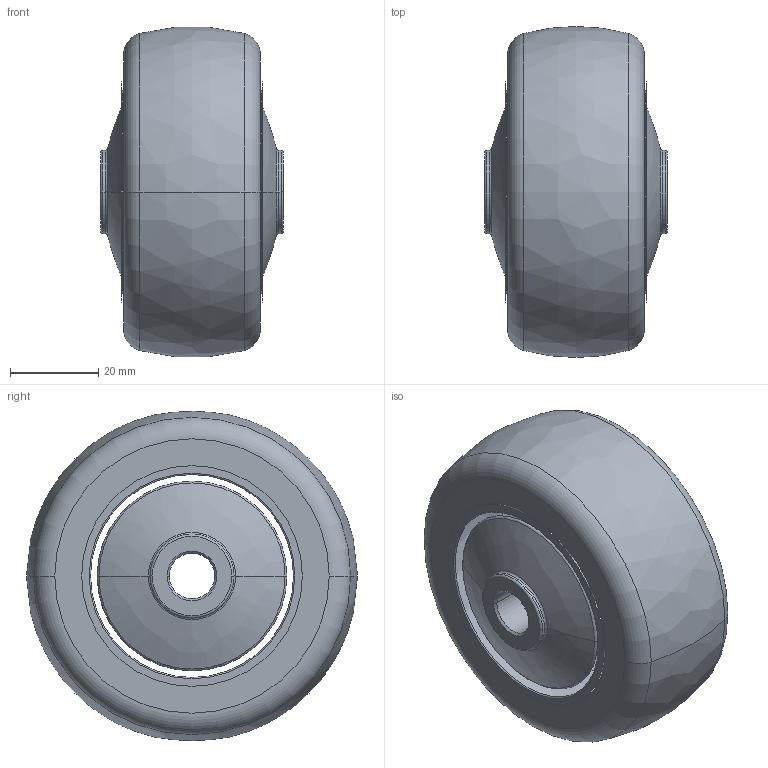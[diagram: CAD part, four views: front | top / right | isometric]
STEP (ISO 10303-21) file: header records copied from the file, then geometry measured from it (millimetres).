
FILE_DESCRIPTION((''),'2;1');
FILE_NAME('PRT0026','2025-09-19T14:29:14',('Administrator'),(''),'CREO PARAMETRIC BY PTC INC, 2022124','CREO PARAMETRIC BY PTC INC, 2022124','');
FILE_SCHEMA(('AUTOMOTIVE_DESIGN { 1 0 10303 214 1 1 1 1 }'));
Length unit declared in the file: millimetre
Products named in the file (1): PRT0026
Bounding box: 41.4 x 75 x 74.64 mm (x, y, z)
Surface area: 15605.6 mm2 (no closed solid volume)
Topology: 0 solids, 5 shells, 48 faces, 106 edges, 64 vertices
Faces by surface type: torus 20, cylinder 8, cone 8, plane 6, bspline 6
Entity records: 1980 total; most frequent: CARTESIAN_POINT 394, DIRECTION 303, ORIENTED_EDGE 192, AXIS2_PLACEMENT_3D 142, EDGE_CURVE 106, CIRCLE 90, VERTEX_POINT 64, EDGE_LOOP 54
